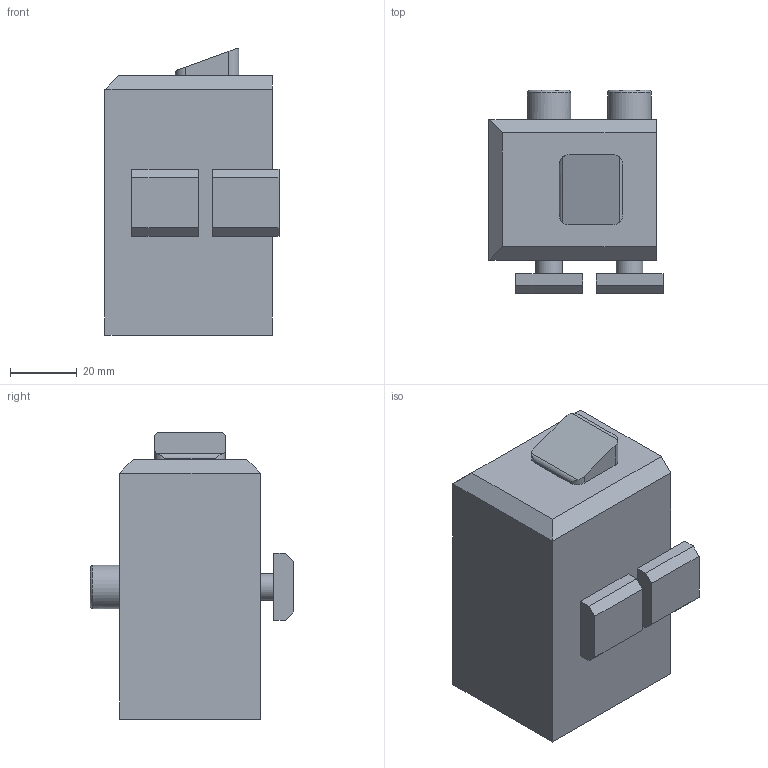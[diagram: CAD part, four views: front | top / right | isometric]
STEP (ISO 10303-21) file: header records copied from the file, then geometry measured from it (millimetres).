
FILE_DESCRIPTION(/* description */ (''),/* implementation_level */ '2;1');
FILE_NAME(/* name */ 'C:\Marketing\01_Versamove-SPU_STEP-Dateien-Homepage\Versamove plus\Rücklaufsperre_pneumatisch.stp',/* time_stamp */ '2016-12-22T15:18:23+01:00',/* author */ ('herbert.engels'),/* organization */ (''),/* preprocessor_version */ 'ST-DEVELOPER v15.6',/* originating_system */ 'Autodesk Inventor 2015',/* authorisation */ '');
FILE_SCHEMA (('CONFIG_CONTROL_DESIGN'));
Length unit declared in the file: millimetre
Products named in the file (1): Rücklaufsperre_pneumatisch
Bounding box: 52 x 60.8 x 85.5 mm (x, y, z)
Volume: 169999.2 mm3; surface area: 23103.2 mm2
Topology: 1 solids, 1 shells, 54 faces, 125 edges, 82 vertices
Faces by surface type: plane 38, cylinder 14, torus 2
Full cylindrical faces by diameter (mm): 1.5 x2, 8 x2, 13 x2, 15 x1, 23.9 x1, 24 x1
Entity records: 1592 total; most frequent: CARTESIAN_POINT 294, DIRECTION 245, ORIENTED_EDGE 218, EDGE_CURVE 109, AXIS2_PLACEMENT_3D 85, VERTEX_POINT 78, EDGE_LOOP 77, LINE 75
